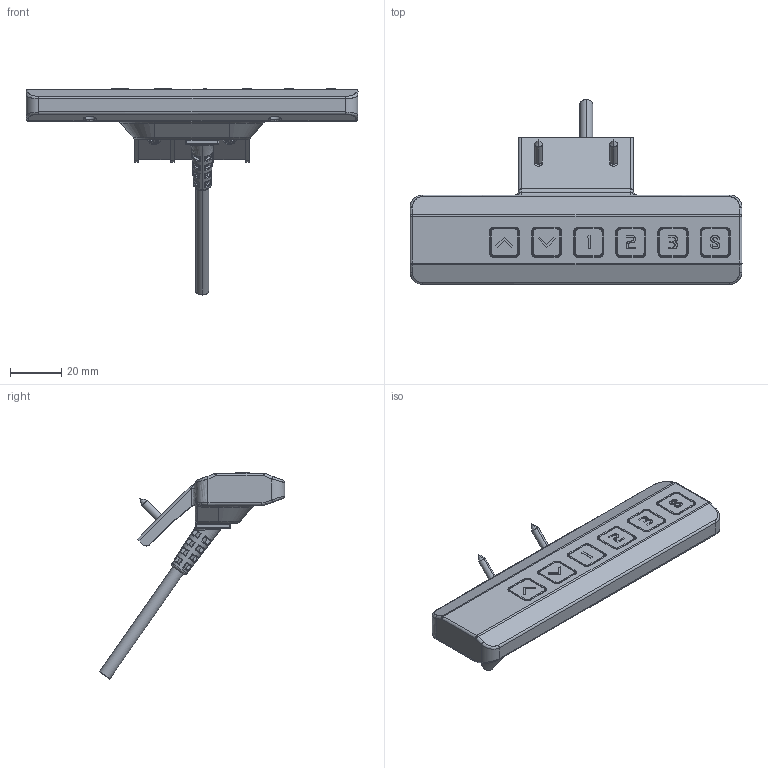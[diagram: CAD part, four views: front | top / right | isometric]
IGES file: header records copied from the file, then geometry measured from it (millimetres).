
Start section: SolidWorks IGES file using NURBS representation for surfaces
Global section: file name: C:\Users\lynn\Desktop\DP08-WUUSB-0920.IGS; native system: SolidWorks 2015; preprocessor: SolidWorks 2015; author: lynn; date: 191121.161512; units: millimetre
Bounding box: 130 x 72.51 x 80.67 mm (x, y, z)
Surface area: 33511 mm2 (no closed solid volume)
Topology: 0 solids, 0 shells, 1418 faces, 13664 edges, 13660 vertices
Faces by surface type: bspline 1418
